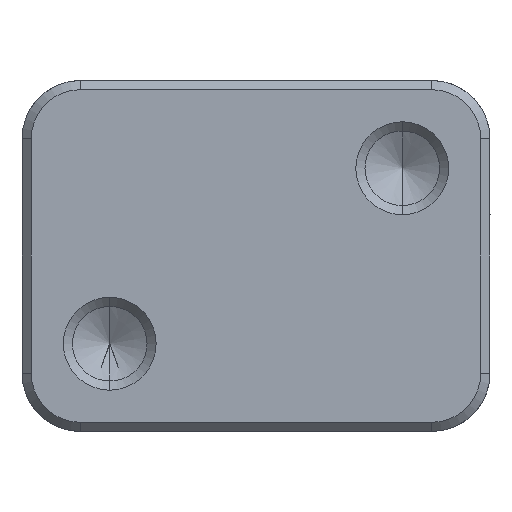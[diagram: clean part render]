
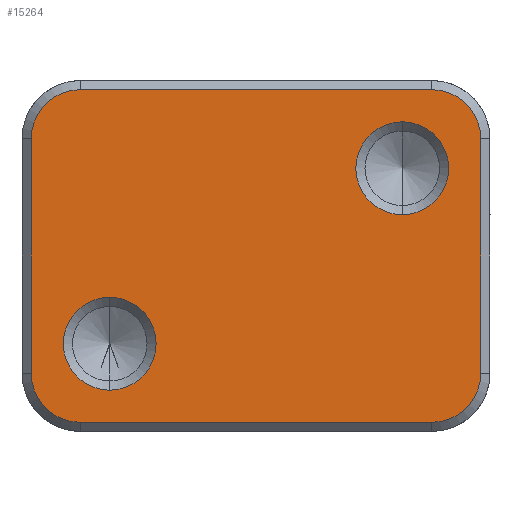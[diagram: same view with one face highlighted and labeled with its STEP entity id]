
A CAD part, front view. The second image highlights one B-rep face of the part: STEP entity #15264.
In plain terms, the highlighted planar face has unit normal (0, -1, 0).
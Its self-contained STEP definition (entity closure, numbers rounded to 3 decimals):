
#27 = EDGE_CURVE ( 'NONE', #13346, #13465, #11707, .T. ) ;
#411 = DIRECTION ( 'NONE',  ( 0., 1., 0. ) ) ;
#425 = DIRECTION ( 'NONE',  ( 0., 0., -1. ) ) ;
#567 = CARTESIAN_POINT ( 'NONE',  ( -24.001, 0., -16.012 ) ) ;
#697 = FACE_BOUND ( 'NONE', #15591, .T. ) ;
#747 = CARTESIAN_POINT ( 'NONE',  ( 20.001, 0., 11.99 ) ) ;
#1094 = DIRECTION ( 'NONE',  ( 0., 0., 1. ) ) ;
#1164 = CARTESIAN_POINT ( 'NONE',  ( -30.75, 0., -24.012 ) ) ;
#1369 = VECTOR ( 'NONE', #5678, 1000. ) ;
#1656 = ORIENTED_EDGE ( 'NONE', *, *, #12417, .T. ) ;
#1958 = VERTEX_POINT ( 'NONE', #10654 ) ;
#2015 = CARTESIAN_POINT ( 'NONE',  ( -30.75, 0., -16.012 ) ) ;
#2197 = VECTOR ( 'NONE', #7237, 1000. ) ;
#2268 = DIRECTION ( 'NONE',  ( 0., -1., 0. ) ) ;
#2310 = ORIENTED_EDGE ( 'NONE', *, *, #27, .T. ) ;
#2318 = DIRECTION ( 'NONE',  ( 0., 0., 1. ) ) ;
#2363 = VERTEX_POINT ( 'NONE', #10825 ) ;
#2513 = ORIENTED_EDGE ( 'NONE', *, *, #3204, .T. ) ;
#2584 = AXIS2_PLACEMENT_3D ( 'NONE', #9838, #9762, #11038 ) ;
#2682 = VERTEX_POINT ( 'NONE', #8321 ) ;
#2881 = CARTESIAN_POINT ( 'NONE',  ( -20.001, 0., -18.362 ) ) ;
#2884 = ORIENTED_EDGE ( 'NONE', *, *, #7177, .T. ) ;
#3142 = PLANE ( 'NONE',  #12523 ) ;
#3155 = ORIENTED_EDGE ( 'NONE', *, *, #12240, .T. ) ;
#3204 = EDGE_CURVE ( 'NONE', #2363, #9475, #12749, .T. ) ;
#3503 = ORIENTED_EDGE ( 'NONE', *, *, #15354, .T. ) ;
#3509 = CARTESIAN_POINT ( 'NONE',  ( 30.75, 0., 15.99 ) ) ;
#3591 = EDGE_CURVE ( 'NONE', #9475, #2363, #11981, .T. ) ;
#3790 = ORIENTED_EDGE ( 'NONE', *, *, #13904, .F. ) ;
#3868 = DIRECTION ( 'NONE',  ( 0., -1., 0. ) ) ;
#4128 = AXIS2_PLACEMENT_3D ( 'NONE', #747, #5494, #11682 ) ;
#4278 = ORIENTED_EDGE ( 'NONE', *, *, #11485, .F. ) ;
#4333 = FACE_OUTER_BOUND ( 'NONE', #9981, .T. ) ;
#4593 = CIRCLE ( 'NONE', #6127, 6.35 ) ;
#4904 = CIRCLE ( 'NONE', #6416, 6.75 ) ;
#5137 = CARTESIAN_POINT ( 'NONE',  ( -24.001, 0., -22.762 ) ) ;
#5230 = DIRECTION ( 'NONE',  ( 0., 0., 1. ) ) ;
#5494 = DIRECTION ( 'NONE',  ( 0., 1., 0. ) ) ;
#5675 = CIRCLE ( 'NONE', #14545, 6.75 ) ;
#5678 = DIRECTION ( 'NONE',  ( -1., 0., 0. ) ) ;
#5885 = CARTESIAN_POINT ( 'NONE',  ( 24.001, 0., -22.762 ) ) ;
#6127 = AXIS2_PLACEMENT_3D ( 'NONE', #11357, #13733, #425 ) ;
#6416 = AXIS2_PLACEMENT_3D ( 'NONE', #9402, #15465, #1094 ) ;
#6582 = EDGE_CURVE ( 'NONE', #13465, #13346, #4593, .T. ) ;
#6985 = ORIENTED_EDGE ( 'NONE', *, *, #12421, .F. ) ;
#7177 = EDGE_CURVE ( 'NONE', #12353, #14919, #8112, .T. ) ;
#7178 = VERTEX_POINT ( 'NONE', #2015 ) ;
#7237 = DIRECTION ( 'NONE',  ( -1., 0., 0. ) ) ;
#7975 = CARTESIAN_POINT ( 'NONE',  ( -32., 0., -24.012 ) ) ;
#8112 = LINE ( 'NONE', #11539, #9905 ) ;
#8293 = CARTESIAN_POINT ( 'NONE',  ( 30.75, 0., -16.012 ) ) ;
#8321 = CARTESIAN_POINT ( 'NONE',  ( -30.75, 0., 15.99 ) ) ;
#8483 = ORIENTED_EDGE ( 'NONE', *, *, #14939, .T. ) ;
#8850 = CARTESIAN_POINT ( 'NONE',  ( 20.001, 0., 18.34 ) ) ;
#8924 = DIRECTION ( 'NONE',  ( 0., 1., 0. ) ) ;
#9085 = DIRECTION ( 'NONE',  ( 0., 0., 1. ) ) ;
#9402 = CARTESIAN_POINT ( 'NONE',  ( 24.001, 0., -16.012 ) ) ;
#9475 = VERTEX_POINT ( 'NONE', #8850 ) ;
#9495 = AXIS2_PLACEMENT_3D ( 'NONE', #13189, #3868, #2318 ) ;
#9511 = EDGE_LOOP ( 'NONE', ( #2513, #14920 ) ) ;
#9638 = LINE ( 'NONE', #12979, #1369 ) ;
#9740 = VECTOR ( 'NONE', #14095, 1000. ) ;
#9762 = DIRECTION ( 'NONE',  ( 0., 1., 0. ) ) ;
#9838 = CARTESIAN_POINT ( 'NONE',  ( -20.001, 0., -12.012 ) ) ;
#9905 = VECTOR ( 'NONE', #11378, 1000. ) ;
#9981 = EDGE_LOOP ( 'NONE', ( #6985, #2884, #8483, #1656, #3155, #3503, #3790, #4278 ) ) ;
#10231 = AXIS2_PLACEMENT_3D ( 'NONE', #12663, #14976, #9085 ) ;
#10370 = CARTESIAN_POINT ( 'NONE',  ( 20.001, 0., 11.99 ) ) ;
#10654 = CARTESIAN_POINT ( 'NONE',  ( 24.001, 0., 22.74 ) ) ;
#10825 = CARTESIAN_POINT ( 'NONE',  ( 20.001, 0., 5.641 ) ) ;
#11038 = DIRECTION ( 'NONE',  ( 0., 0., -1. ) ) ;
#11357 = CARTESIAN_POINT ( 'NONE',  ( -20.001, 0., -12.012 ) ) ;
#11378 = DIRECTION ( 'NONE',  ( 0., 0., 1. ) ) ;
#11485 = EDGE_CURVE ( 'NONE', #11932, #14874, #14471, .T. ) ;
#11539 = CARTESIAN_POINT ( 'NONE',  ( 30.75, 0., -24.012 ) ) ;
#11682 = DIRECTION ( 'NONE',  ( 0., 0., -1. ) ) ;
#11707 = CIRCLE ( 'NONE', #2584, 6.35 ) ;
#11932 = VERTEX_POINT ( 'NONE', #5885 ) ;
#11939 = CARTESIAN_POINT ( 'NONE',  ( -32., 0., -22.762 ) ) ;
#11981 = CIRCLE ( 'NONE', #4128, 6.35 ) ;
#12022 = LINE ( 'NONE', #1164, #9740 ) ;
#12178 = ORIENTED_EDGE ( 'NONE', *, *, #6582, .T. ) ;
#12240 = EDGE_CURVE ( 'NONE', #12274, #2682, #12258, .T. ) ;
#12258 = CIRCLE ( 'NONE', #10231, 6.75 ) ;
#12274 = VERTEX_POINT ( 'NONE', #12829 ) ;
#12317 = CARTESIAN_POINT ( 'NONE',  ( -20.001, 0., -5.663 ) ) ;
#12353 = VERTEX_POINT ( 'NONE', #8293 ) ;
#12417 = EDGE_CURVE ( 'NONE', #1958, #12274, #9638, .T. ) ;
#12421 = EDGE_CURVE ( 'NONE', #12353, #11932, #4904, .T. ) ;
#12523 = AXIS2_PLACEMENT_3D ( 'NONE', #7975, #2268, #14168 ) ;
#12588 = DIRECTION ( 'NONE',  ( 0., 0., -1. ) ) ;
#12663 = CARTESIAN_POINT ( 'NONE',  ( -24.001, 0., 15.99 ) ) ;
#12749 = CIRCLE ( 'NONE', #12994, 6.35 ) ;
#12792 = CIRCLE ( 'NONE', #9495, 6.75 ) ;
#12829 = CARTESIAN_POINT ( 'NONE',  ( -24.001, 0., 22.74 ) ) ;
#12979 = CARTESIAN_POINT ( 'NONE',  ( -32., 0., 22.74 ) ) ;
#12994 = AXIS2_PLACEMENT_3D ( 'NONE', #10370, #8924, #12588 ) ;
#13189 = CARTESIAN_POINT ( 'NONE',  ( 24.001, 0., 15.99 ) ) ;
#13346 = VERTEX_POINT ( 'NONE', #2881 ) ;
#13465 = VERTEX_POINT ( 'NONE', #12317 ) ;
#13733 = DIRECTION ( 'NONE',  ( 0., 1., 0. ) ) ;
#13904 = EDGE_CURVE ( 'NONE', #14874, #7178, #5675, .T. ) ;
#14095 = DIRECTION ( 'NONE',  ( 0., 0., -1. ) ) ;
#14168 = DIRECTION ( 'NONE',  ( 1., 0., 0. ) ) ;
#14471 = LINE ( 'NONE', #11939, #2197 ) ;
#14545 = AXIS2_PLACEMENT_3D ( 'NONE', #567, #411, #5230 ) ;
#14874 = VERTEX_POINT ( 'NONE', #5137 ) ;
#14919 = VERTEX_POINT ( 'NONE', #3509 ) ;
#14920 = ORIENTED_EDGE ( 'NONE', *, *, #3591, .T. ) ;
#14939 = EDGE_CURVE ( 'NONE', #14919, #1958, #12792, .T. ) ;
#14976 = DIRECTION ( 'NONE',  ( 0., -1., 0. ) ) ;
#15219 = FACE_BOUND ( 'NONE', #9511, .T. ) ;
#15264 = ADVANCED_FACE ( 'NONE', ( #697, #4333, #15219 ), #3142, .T. ) ;
#15354 = EDGE_CURVE ( 'NONE', #2682, #7178, #12022, .T. ) ;
#15465 = DIRECTION ( 'NONE',  ( 0., 1., 0. ) ) ;
#15591 = EDGE_LOOP ( 'NONE', ( #2310, #12178 ) ) ;
